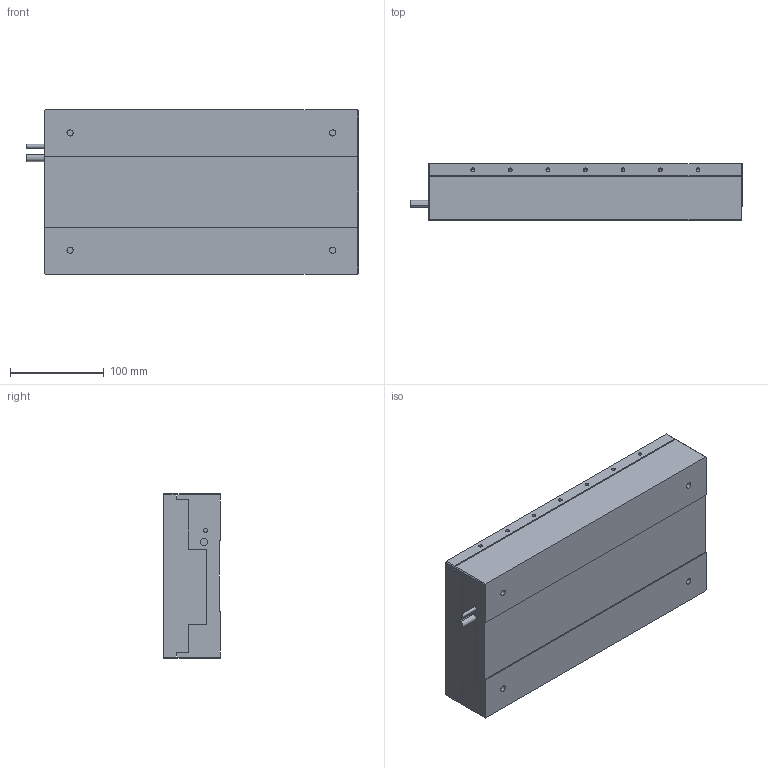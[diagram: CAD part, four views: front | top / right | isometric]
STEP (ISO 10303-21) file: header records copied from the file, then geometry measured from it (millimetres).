
FILE_DESCRIPTION (( 'STEP AP203' ), '1' );
FILE_NAME ('NPS-L-CB8-05x.STEP', '2019-09-11T06:18:28', ( '' ), ( '' ), 'SwSTEP 2.0', 'SolidWorks 2015', '' );
FILE_SCHEMA (( 'CONFIG_CONTROL_DESIGN' ));
Length unit declared in the file: millimetre
Products named in the file (3): NPS-L-CB8-05x_移動部; NPS-L-CB8-05x; NPS-L-CB8-05x_固定部
Assembly tree (2 placements, depth 2):
  NPS-L-CB8-05x
    NPS-L-CB8-05x_固定部
    NPS-L-CB8-05x_移動部
Bounding box: 354 x 60 x 175 mm (x, y, z)
Volume: 3462392.8 mm3; surface area: 346471.2 mm2
Topology: 2 solids, 2 shells, 244 faces, 556 edges, 344 vertices
Faces by surface type: cylinder 128, plane 84, cone 32
Entity records: 7017 total; most frequent: DIRECTION 1278, CARTESIAN_POINT 1117, ORIENTED_EDGE 1048, EDGE_CURVE 524, AXIS2_PLACEMENT_3D 505, VERTEX_POINT 344, EDGE_LOOP 312, VECTOR 268
